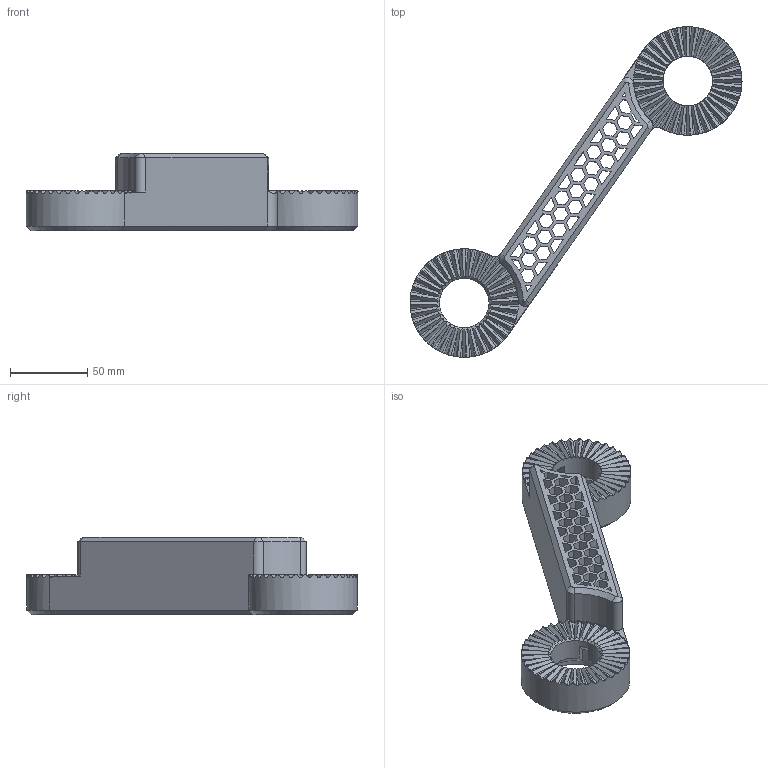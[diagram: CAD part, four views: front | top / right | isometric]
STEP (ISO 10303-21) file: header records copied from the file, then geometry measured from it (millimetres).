
FILE_DESCRIPTION(/* description */ (''),/* implementation_level */ '2;1');
FILE_NAME(/* name */ '/Users/rostapetr/Downloads/arm-honeycomb.step',/* time_stamp */ '2022-04-16T22:19:27+02:00',/* author */ (''),/* organization */ (''),/* preprocessor_version */ 'ST-DEVELOPER v18.1',/* originating_system */ 'Autodesk Translation Framework v10.14.0.1471',/* authorisation */ '');
FILE_SCHEMA (('AUTOMOTIVE_DESIGN { 1 0 10303 214 3 1 1 }'));
Length unit declared in the file: millimetre
Products named in the file (1): arm-honeycomb
Bounding box: 214.32 x 213.35 x 50 mm (x, y, z)
Volume: 288652 mm3; surface area: 101014.7 mm2
Topology: 1 solids, 1 shells, 580 faces, 1691 edges, 1111 vertices
Faces by surface type: plane 502, cylinder 55, cone 23
Full cylindrical faces by diameter (mm): 32 x2, 45.5 x2
Entity records: 19320 total; most frequent: CARTESIAN_POINT 3577, ORIENTED_EDGE 3382, DIRECTION 3266, EDGE_CURVE 1691, VERTEX_POINT 1111, AXIS2_PLACEMENT_3D 1091, LINE 1084, VECTOR 1084
